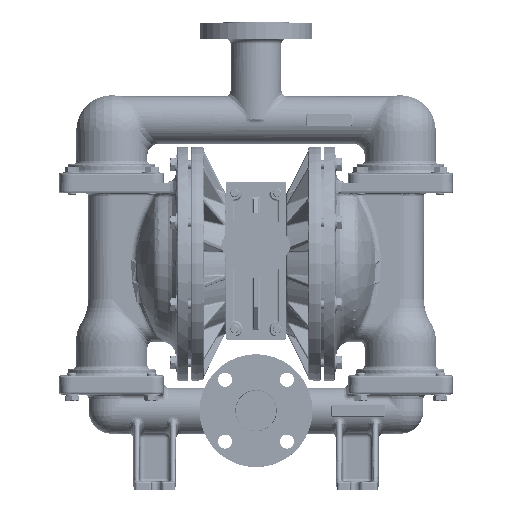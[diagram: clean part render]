
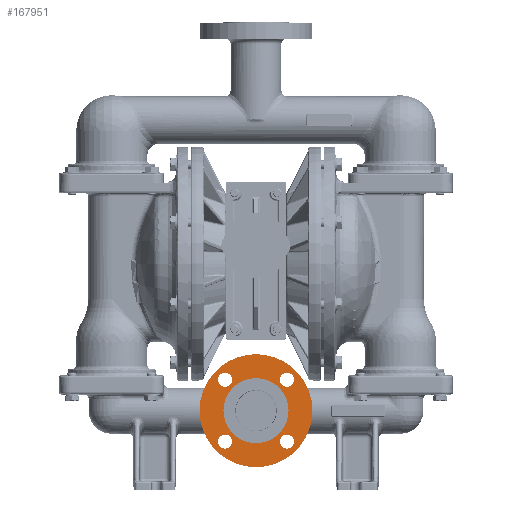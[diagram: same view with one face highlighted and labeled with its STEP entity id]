
A CAD part, top view. The second image highlights one B-rep face of the part: STEP entity #167951.
In plain terms, the highlighted planar face has unit normal (0, 0, 1).
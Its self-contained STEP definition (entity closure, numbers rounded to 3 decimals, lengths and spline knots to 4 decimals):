
#279 = EDGE_CURVE ( 'NONE', #281697, #481075, #218431, .T. ) ;
#13117 = VERTEX_POINT ( 'NONE', #80076 ) ;
#15470 = CARTESIAN_POINT ( 'NONE',  ( 0., -6.51, 3.18 ) ) ;
#18138 = DIRECTION ( 'NONE',  ( 1., 0., 0. ) ) ;
#18532 = CARTESIAN_POINT ( 'NONE',  ( 0., -5.07, 3.18 ) ) ;
#26960 = DIRECTION ( 'NONE',  ( 0., 0., -1. ) ) ;
#32491 = EDGE_CURVE ( 'NONE', #309833, #459473, #382245, .T. ) ;
#33620 = DIRECTION ( 'NONE',  ( 0., 1., 0. ) ) ;
#33965 = AXIS2_PLACEMENT_3D ( 'NONE', #495702, #296917, #424093 ) ;
#34145 = DIRECTION ( 'NONE',  ( 0., 0., -1. ) ) ;
#34692 = AXIS2_PLACEMENT_3D ( 'NONE', #377157, #88309, #85701 ) ;
#37000 = CARTESIAN_POINT ( 'NONE',  ( -1.0575, -5.14, 3.18 ) ) ;
#49728 = DIRECTION ( 'NONE',  ( 0., 0., -1. ) ) ;
#51372 = VERTEX_POINT ( 'NONE', #277044 ) ;
#51550 = ORIENTED_EDGE ( 'NONE', *, *, #361771, .T. ) ;
#52322 = AXIS2_PLACEMENT_3D ( 'NONE', #519561, #522152, #355426 ) ;
#53143 = FACE_BOUND ( 'NONE', #108930, .T. ) ;
#56087 = CARTESIAN_POINT ( 'NONE',  ( 0., -7.95, 3.18 ) ) ;
#58384 = FACE_BOUND ( 'NONE', #494244, .T. ) ;
#59007 = ORIENTED_EDGE ( 'NONE', *, *, #263435, .F. ) ;
#64566 = ORIENTED_EDGE ( 'NONE', *, *, #106080, .T. ) ;
#71859 = DIRECTION ( 'NONE',  ( 1., 0., 0. ) ) ;
#79014 = DIRECTION ( 'NONE',  ( 0., -1., 0. ) ) ;
#80076 = CARTESIAN_POINT ( 'NONE',  ( 0., -9.01, 3.18 ) ) ;
#85701 = DIRECTION ( 'NONE',  ( 0., 1., 0. ) ) ;
#88054 = CIRCLE ( 'NONE', #485660, 1.44 ) ;
#88309 = DIRECTION ( 'NONE',  ( 0., 0., -1. ) ) ;
#88655 = CIRCLE ( 'NONE', #122695, 1.44 ) ;
#94506 = CARTESIAN_POINT ( 'NONE',  ( -1.37, -7.88, 3.18 ) ) ;
#100496 = CIRCLE ( 'NONE', #252889, 2.5 ) ;
#106080 = EDGE_CURVE ( 'NONE', #51372, #125806, #429381, .T. ) ;
#108930 = EDGE_LOOP ( 'NONE', ( #344613, #232502 ) ) ;
#109058 = CARTESIAN_POINT ( 'NONE',  ( -1.37, -7.88, 3.18 ) ) ;
#113097 = CARTESIAN_POINT ( 'NONE',  ( 0., -6.51, 3.18 ) ) ;
#119625 = AXIS2_PLACEMENT_3D ( 'NONE', #94506, #423067, #340925 ) ;
#120186 = VERTEX_POINT ( 'NONE', #237530 ) ;
#122695 = AXIS2_PLACEMENT_3D ( 'NONE', #113097, #232393, #33620 ) ;
#125806 = VERTEX_POINT ( 'NONE', #319563 ) ;
#133655 = AXIS2_PLACEMENT_3D ( 'NONE', #351854, #142621, #18138 ) ;
#135368 = CARTESIAN_POINT ( 'NONE',  ( 1.0575, -5.14, 3.18 ) ) ;
#137923 = FACE_BOUND ( 'NONE', #179551, .T. ) ;
#142621 = DIRECTION ( 'NONE',  ( 0., 0., -1. ) ) ;
#147398 = EDGE_CURVE ( 'NONE', #411554, #283161, #88054, .T. ) ;
#155950 = CARTESIAN_POINT ( 'NONE',  ( -1.37, -5.14, 3.18 ) ) ;
#161140 = ORIENTED_EDGE ( 'NONE', *, *, #169730, .F. ) ;
#167951 = ADVANCED_FACE ( 'NONE', ( #262428, #137923, #259802, #58384, #220057, #53143 ), #456007, .F. ) ;
#169730 = EDGE_CURVE ( 'NONE', #120186, #13117, #271876, .T. ) ;
#179551 = EDGE_LOOP ( 'NONE', ( #59007, #416149 ) ) ;
#187020 = CIRCLE ( 'NONE', #356505, 0.3125 ) ;
#192574 = CIRCLE ( 'NONE', #437693, 0.3125 ) ;
#216827 = DIRECTION ( 'NONE',  ( 0., 1., 0. ) ) ;
#218431 = CIRCLE ( 'NONE', #133655, 0.3125 ) ;
#220057 = FACE_BOUND ( 'NONE', #274825, .T. ) ;
#229439 = CIRCLE ( 'NONE', #119625, 0.3125 ) ;
#232393 = DIRECTION ( 'NONE',  ( 0., 0., 1. ) ) ;
#232502 = ORIENTED_EDGE ( 'NONE', *, *, #514314, .T. ) ;
#235306 = AXIS2_PLACEMENT_3D ( 'NONE', #511402, #267681, #310019 ) ;
#237530 = CARTESIAN_POINT ( 'NONE',  ( 0., -4.01, 3.18 ) ) ;
#248336 = AXIS2_PLACEMENT_3D ( 'NONE', #155950, #34145, #442126 ) ;
#252889 = AXIS2_PLACEMENT_3D ( 'NONE', #412822, #49728, #79014 ) ;
#254498 = DIRECTION ( 'NONE',  ( -1., 0., 0. ) ) ;
#259802 = FACE_BOUND ( 'NONE', #303830, .T. ) ;
#262428 = FACE_OUTER_BOUND ( 'NONE', #347682, .T. ) ;
#263435 = EDGE_CURVE ( 'NONE', #411554, #283161, #88655, .T. ) ;
#264758 = ORIENTED_EDGE ( 'NONE', *, *, #438413, .T. ) ;
#267681 = DIRECTION ( 'NONE',  ( 0., 0., -1. ) ) ;
#271876 = CIRCLE ( 'NONE', #34692, 2.5 ) ;
#274825 = EDGE_LOOP ( 'NONE', ( #390981, #51550 ) ) ;
#277044 = CARTESIAN_POINT ( 'NONE',  ( 1.0575, -7.88, 3.18 ) ) ;
#281697 = VERTEX_POINT ( 'NONE', #37000 ) ;
#283161 = VERTEX_POINT ( 'NONE', #56087 ) ;
#296917 = DIRECTION ( 'NONE',  ( 0., 0., -1. ) ) ;
#296956 = CARTESIAN_POINT ( 'NONE',  ( -1.6825, -5.14, 3.18 ) ) ;
#303830 = EDGE_LOOP ( 'NONE', ( #422609, #508731 ) ) ;
#309833 = VERTEX_POINT ( 'NONE', #135368 ) ;
#310019 = DIRECTION ( 'NONE',  ( 1., 0., 0. ) ) ;
#319563 = CARTESIAN_POINT ( 'NONE',  ( 1.6825, -7.88, 3.18 ) ) ;
#328302 = CIRCLE ( 'NONE', #235306, 0.3125 ) ;
#340925 = DIRECTION ( 'NONE',  ( -1., 0., 0. ) ) ;
#344613 = ORIENTED_EDGE ( 'NONE', *, *, #279, .T. ) ;
#345872 = DIRECTION ( 'NONE',  ( 0., 0., -1. ) ) ;
#347682 = EDGE_LOOP ( 'NONE', ( #460702, #161140 ) ) ;
#351854 = CARTESIAN_POINT ( 'NONE',  ( -1.37, -5.14, 3.18 ) ) ;
#355426 = DIRECTION ( 'NONE',  ( -1., 0., 0. ) ) ;
#356505 = AXIS2_PLACEMENT_3D ( 'NONE', #109058, #26960, #71859 ) ;
#361771 = EDGE_CURVE ( 'NONE', #431072, #501155, #229439, .T. ) ;
#367538 = EDGE_CURVE ( 'NONE', #13117, #120186, #100496, .T. ) ;
#377157 = CARTESIAN_POINT ( 'NONE',  ( 0., -6.51, 3.18 ) ) ;
#382245 = CIRCLE ( 'NONE', #52322, 0.3125 ) ;
#384980 = CARTESIAN_POINT ( 'NONE',  ( -1.6825, -7.88, 3.18 ) ) ;
#390981 = ORIENTED_EDGE ( 'NONE', *, *, #392634, .T. ) ;
#392634 = EDGE_CURVE ( 'NONE', #501155, #431072, #187020, .T. ) ;
#403103 = CARTESIAN_POINT ( 'NONE',  ( -1.0575, -7.88, 3.18 ) ) ;
#411554 = VERTEX_POINT ( 'NONE', #18532 ) ;
#412822 = CARTESIAN_POINT ( 'NONE',  ( 0., -6.51, 3.18 ) ) ;
#413548 = DIRECTION ( 'NONE',  ( 0., 0., -1. ) ) ;
#416149 = ORIENTED_EDGE ( 'NONE', *, *, #147398, .T. ) ;
#422609 = ORIENTED_EDGE ( 'NONE', *, *, #481192, .T. ) ;
#422768 = CARTESIAN_POINT ( 'NONE',  ( 1.37, -7.88, 3.18 ) ) ;
#423067 = DIRECTION ( 'NONE',  ( 0., 0., -1. ) ) ;
#424093 = DIRECTION ( 'NONE',  ( 0., -1., 0. ) ) ;
#426217 = CIRCLE ( 'NONE', #248336, 0.3125 ) ;
#427977 = DIRECTION ( 'NONE',  ( 1., 0., 0. ) ) ;
#429381 = CIRCLE ( 'NONE', #463433, 0.3125 ) ;
#431072 = VERTEX_POINT ( 'NONE', #384980 ) ;
#437693 = AXIS2_PLACEMENT_3D ( 'NONE', #422768, #345872, #427977 ) ;
#438413 = EDGE_CURVE ( 'NONE', #125806, #51372, #192574, .T. ) ;
#442126 = DIRECTION ( 'NONE',  ( -1., 0., 0. ) ) ;
#456007 = PLANE ( 'NONE',  #33965 ) ;
#459473 = VERTEX_POINT ( 'NONE', #500229 ) ;
#460702 = ORIENTED_EDGE ( 'NONE', *, *, #367538, .F. ) ;
#463249 = DIRECTION ( 'NONE',  ( 0., 0., -1. ) ) ;
#463433 = AXIS2_PLACEMENT_3D ( 'NONE', #495627, #413548, #254498 ) ;
#481075 = VERTEX_POINT ( 'NONE', #296956 ) ;
#481192 = EDGE_CURVE ( 'NONE', #459473, #309833, #328302, .T. ) ;
#485660 = AXIS2_PLACEMENT_3D ( 'NONE', #15470, #463249, #216827 ) ;
#494244 = EDGE_LOOP ( 'NONE', ( #264758, #64566 ) ) ;
#495627 = CARTESIAN_POINT ( 'NONE',  ( 1.37, -7.88, 3.18 ) ) ;
#495702 = CARTESIAN_POINT ( 'NONE',  ( 0., -6.51, 3.18 ) ) ;
#500229 = CARTESIAN_POINT ( 'NONE',  ( 1.6825, -5.14, 3.18 ) ) ;
#501155 = VERTEX_POINT ( 'NONE', #403103 ) ;
#508731 = ORIENTED_EDGE ( 'NONE', *, *, #32491, .T. ) ;
#511402 = CARTESIAN_POINT ( 'NONE',  ( 1.37, -5.14, 3.18 ) ) ;
#514314 = EDGE_CURVE ( 'NONE', #481075, #281697, #426217, .T. ) ;
#519561 = CARTESIAN_POINT ( 'NONE',  ( 1.37, -5.14, 3.18 ) ) ;
#522152 = DIRECTION ( 'NONE',  ( 0., 0., -1. ) ) ;
